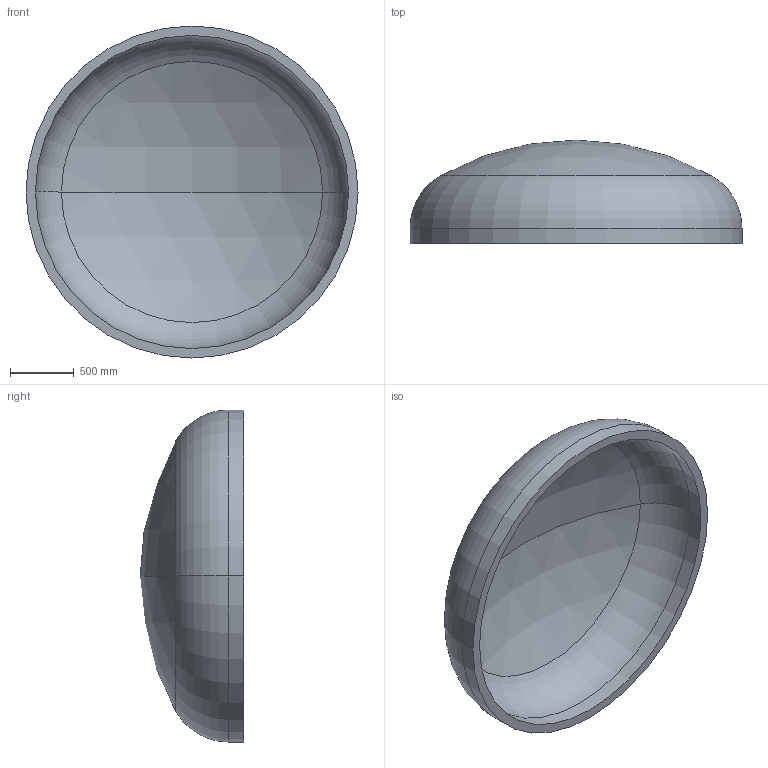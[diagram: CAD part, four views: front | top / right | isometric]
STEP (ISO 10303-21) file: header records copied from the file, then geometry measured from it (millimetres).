
FILE_DESCRIPTION (( 'STEP AP203' ), '1' );
FILE_NAME ('DIN 28013 Korbbogenform_-_Boden DIN 28013 - 2600 x 120 - I - s=74.step', '2016-07-01T16:23:37', ( '' ), ( '' ), 'SwSTEP 2.0', 'SolidWorks 2013', '' );
FILE_SCHEMA (( 'CONFIG_CONTROL_DESIGN' ));
Length unit declared in the file: millimetre
Products named in the file (1): DIN 28013 Korbbogenform_-_Boden DIN 28013 - 2600 x 120 - I - s=74
Bounding box: 2600 x 811.08 x 2600 mm (x, y, z)
Volume: 594622107.8 mm3; surface area: 16669570.7 mm2
Topology: 1 solids, 1 shells, 13 faces, 24 edges, 14 vertices
Faces by surface type: torus 4, cylinder 4, sphere 4, plane 1
Entity records: 407 total; most frequent: DIRECTION 72, CARTESIAN_POINT 52, ORIENTED_EDGE 48, AXIS2_PLACEMENT_3D 34, EDGE_CURVE 24, CIRCLE 20, VERTEX_POINT 14, EDGE_LOOP 14
